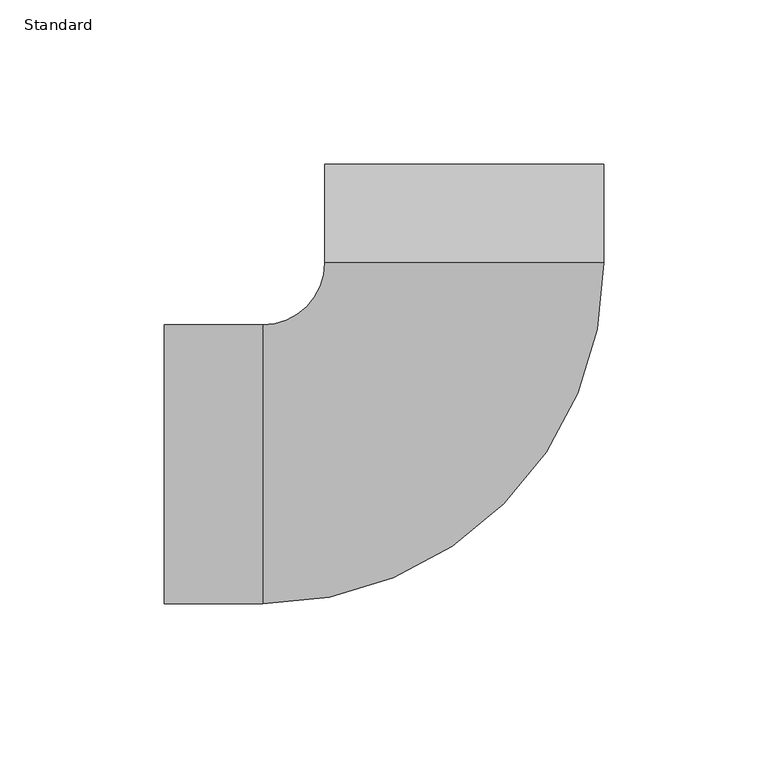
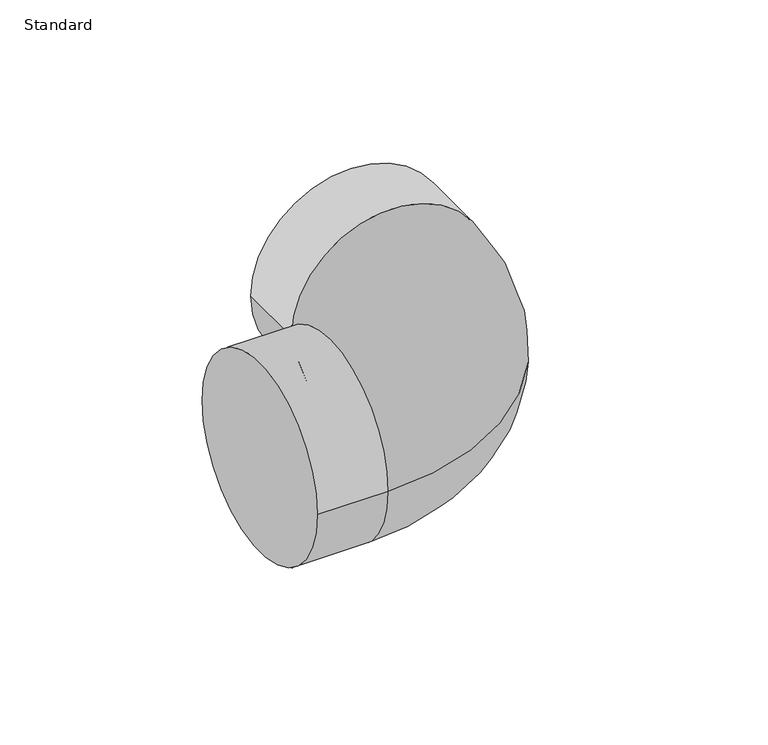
"""IFC4 building model written with IfcOpenShell, lengths in millimetres: pipe fitting geometry, Coude court PVC-C Pression PN 16 : Standard."""

from ifc_helpers import new_model, si_unit, point, frame, origin, place, context, project, spatial, circle_curve, ellipse_curve, trimmed, source, transform, mapped, element, save
from ifc_brep_helpers import plane_surface, cylinder_surface, revolved_surface, advanced_brep


def standard_ff283e1d(model_context):
    return source(origin(), model_context, "Body", "AdvancedBrep", [
        advanced_brep(
        [(39.4430553, -42.5, 0.0), (39.4430553, 42.5, 0.0), (69.4430553, -42.5, 0.0), (69.4430553, 42.5, 0.0), (173.4613453, 61.51829, 0.0), (88.4613453, 61.51829, 0.0), (173.4613453, 91.51829, 0.0), (88.4613453, 91.51829, 0.0)],
        [
            (0, 1, circle_curve(frame((39.4430553, 0.0, 0.0), z_axis=(-1.0, 0.0, 0.0), x_axis=(0.0, 1.0, 0.0)), 42.5)),
            (1, 0, circle_curve(frame((39.4430553, 0.0, 0.0), z_axis=(-1.0, 0.0, 0.0), x_axis=(0.0, 1.0, 0.0)), 42.5)),
            (0, 2),
            (2, 3, circle_curve(frame((69.4430553, 0.0, 0.0), z_axis=(-1.0, 0.0, 0.0), x_axis=(0.0, 1.0, 0.0)), 42.5)),
            (3, 1),
            (3, 2, circle_curve(frame((69.4430553, 0.0, 0.0), z_axis=(-1.0, 0.0, 0.0), x_axis=(0.0, 1.0, 0.0)), 42.5)),
            (2, 4, circle_curve(frame((69.4430553, 61.51829, 0.0), z_axis=(0.0, 0.0, 1.0), x_axis=(1.0, 0.0, 0.0)), 104.01829)),
            (4, 5, circle_curve(frame((130.9613453, 61.51829, 0.0), z_axis=(0.0, -1.0, 0.0), x_axis=(1.0, 0.0, 0.0)), 42.5)),
            (5, 3, circle_curve(frame((69.4430553, 61.51829, 0.0), z_axis=(0.0, 0.0, -1.0), x_axis=(1.0, 0.0, 0.0)), 19.01829)),
            (5, 4, circle_curve(frame((130.9613453, 61.51829, 0.0), z_axis=(0.0, -1.0, 0.0), x_axis=(1.0, 0.0, 0.0)), 42.5)),
            (6, 7, circle_curve(frame((130.9613453, 91.51829, 0.0), z_axis=(0.0, 1.0, 0.0), x_axis=(-1.0, 0.0, 0.0)), 42.5)),
            (7, 6, circle_curve(frame((130.9613453, 91.51829, 0.0), z_axis=(0.0, 1.0, 0.0), x_axis=(-1.0, 0.0, 0.0)), 42.5)),
            (7, 5),
            (4, 6),
        ],
        [
            plane_surface(frame((39.4430553, 0.0, 0.0), z_axis=(-1.0, 0.0, 0.0), x_axis=(0.0, 0.0, 1.0))),
            cylinder_surface(frame((39.4430553, 0.0, 0.0), z_axis=(-1.0, 0.0, 0.0), x_axis=(0.0, 1.0, 0.0)), 42.5),
            revolved_surface(trimmed(ellipse_curve(frame((130.9613453, 61.51829, 0.0), z_axis=(0.0, 1.0, 0.0), x_axis=(1.0, 0.0, 0.0)), 42.5, 42.5), [point((88.4613453, 61.51829, 0.0))], [point((173.4613453, 61.51829, 0.0))], True, "CARTESIAN"), (69.4430553, 61.51829, 0.0), (0.0, 0.0, -1.0)),
            revolved_surface(trimmed(ellipse_curve(frame((130.9613453, 61.51829, 0.0), z_axis=(0.0, 1.0, 0.0), x_axis=(1.0, 0.0, 0.0)), 42.5, 42.5), [point((173.4613453, 61.51829, 0.0))], [point((88.4613453, 61.51829, 0.0))], True, "CARTESIAN"), (69.4430553, 61.51829, 0.0), (0.0, 0.0, -1.0)),
            plane_surface(frame((130.9613453, 91.51829, 0.0), z_axis=(0.0, 1.0, 0.0), x_axis=(0.0, 0.0, 1.0))),
            cylinder_surface(frame((130.9613453, 61.51829, 0.0), z_axis=(0.0, -1.0, 0.0), x_axis=(-1.0, 0.0, 0.0)), 42.5),
        ],
        [
            (0, [[1, 2]]),
            (1, [[-1, 3, 4, 5]]),
            (1, [[-2, -5, 6, -3]]),
            (2, [[7, 8, 9, -4]]),
            (3, [[-7, -6, -9, 10]]),
            (4, [[11, 12]]),
            (5, [[-12, 13, -8, 14]]),
            (5, [[-11, -14, -10, -13]]),
        ],
    ),
    ])


if __name__ == "__main__":
    model = new_model("IFC4")
    model_context = context("Model", 3, world=origin())
    ifc_project = project(units=[si_unit("LENGTHUNIT", "METRE", prefix="MILLI")], contexts=[model_context])
    site = spatial("IfcSite", under=ifc_project)
    building = spatial("IfcBuilding", under=site)
    placement = place(None, origin())
    standard_shape = standard_ff283e1d(model_context)
    element("IfcPipeFitting", 1, ObjectType="Coude court PVC-C Pression PN 16 : Standard", at=placement, inside=building, context=model_context, shape_type="MappedRepresentation", body=[
        mapped(standard_shape, transform((0.0, 0.0, 0.0), x_axis=(1.0, 0.0, 0.0), y_axis=(0.0, 1.0, 0.0), z_axis=(0.0, 0.0, 1.0))),
    ])
    save(model, "model.ifc")
